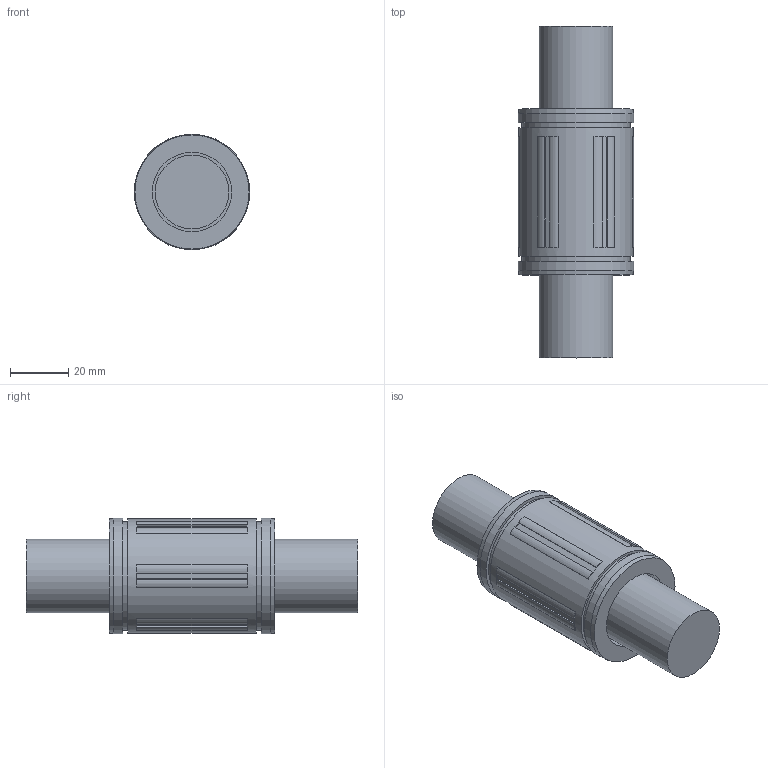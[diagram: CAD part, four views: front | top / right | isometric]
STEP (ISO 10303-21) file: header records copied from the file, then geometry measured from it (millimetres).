
FILE_DESCRIPTION((''),'2;1');
FILE_NAME('D:\STEP\SUPER\LMBS\LMBS16.stp','2013-02-14T08:04:57',('user2'),(''),'Autodesk Inventor 2012','Autodesk Inventor 2012','');
FILE_SCHEMA(('AUTOMOTIVE_DESIGN { 1 0 10303 214 1 1 1 1 }'));
Length unit declared in the file: millimetre
Products named in the file (1): LMBS16
Bounding box: 39.69 x 114.3 x 39.69 mm (x, y, z)
Volume: 97312.4 mm3; surface area: 16564.3 mm2
Topology: 1 solids, 1 shells, 99 faces, 226 edges, 142 vertices
Faces by surface type: plane 76, cylinder 21, cone 2
Full cylindrical faces by diameter (mm): 25.4 x2, 27.4 x2, 37.31 x2, 39.3 x1, 39.688 x2
Entity records: 2744 total; most frequent: DIRECTION 492, CARTESIAN_POINT 452, ORIENTED_EDGE 424, EDGE_CURVE 212, AXIS2_PLACEMENT_3D 180, VERTEX_POINT 140, VECTOR 132, LINE 132
